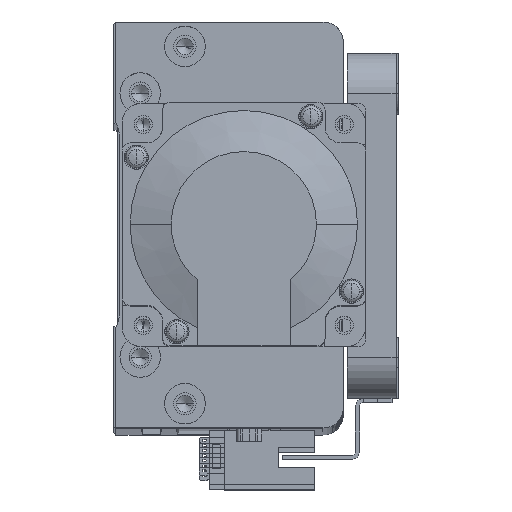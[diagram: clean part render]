
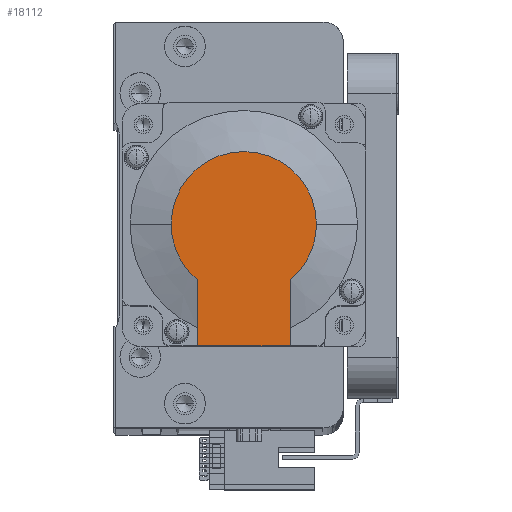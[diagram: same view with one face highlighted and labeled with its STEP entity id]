
A CAD part, top view. The second image highlights one B-rep face of the part: STEP entity #18112.
In plain terms, the highlighted planar face has unit normal (0, 0, 1) as drawn and (-1, 0, 0) by its records, which use the part's own axes.
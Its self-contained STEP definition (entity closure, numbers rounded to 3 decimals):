
#284 = CARTESIAN_POINT ( 'NONE',  ( -118.5, 13.735, -11.45 ) ) ;
#377 = VECTOR ( 'NONE', #56277, 1000. ) ;
#777 = DIRECTION ( 'NONE',  ( -1., 0., 0. ) ) ;
#2112 = DIRECTION ( 'NONE',  ( 0., 0., 1. ) ) ;
#2605 = VECTOR ( 'NONE', #6453, 1000. ) ;
#3573 = ORIENTED_EDGE ( 'NONE', *, *, #23605, .T. ) ;
#4505 = ORIENTED_EDGE ( 'NONE', *, *, #16506, .T. ) ;
#5080 = DIRECTION ( 'NONE',  ( -1., 0., 0. ) ) ;
#6453 = DIRECTION ( 'NONE',  ( 0., -1., 0. ) ) ;
#7199 = CIRCLE ( 'NONE', #49834, 17.881 ) ;
#7464 = ORIENTED_EDGE ( 'NONE', *, *, #56661, .F. ) ;
#11779 = VERTEX_POINT ( 'NONE', #45038 ) ;
#16506 = EDGE_CURVE ( 'NONE', #11779, #18006, #48184, .T. ) ;
#16622 = ORIENTED_EDGE ( 'NONE', *, *, #36509, .T. ) ;
#17113 = EDGE_LOOP ( 'NONE', ( #4505, #16622, #3573, #36120, #7464, #48745 ) ) ;
#17534 = EDGE_CURVE ( 'NONE', #29219, #39411, #42592, .T. ) ;
#18006 = VERTEX_POINT ( 'NONE', #284 ) ;
#18112 = ADVANCED_FACE ( 'NONE', ( #58006 ), #36474, .T. ) ;
#18321 = EDGE_CURVE ( 'NONE', #11779, #34857, #23401, .T. ) ;
#18755 = CARTESIAN_POINT ( 'NONE',  ( -118.5, 0., -17.881 ) ) ;
#19344 = DIRECTION ( 'NONE',  ( -1., 0., 0. ) ) ;
#19655 = AXIS2_PLACEMENT_3D ( 'NONE', #47084, #20106, #51637 ) ;
#20106 = DIRECTION ( 'NONE',  ( -1., 0., 0. ) ) ;
#23401 = LINE ( 'NONE', #24483, #57947 ) ;
#23605 = EDGE_CURVE ( 'NONE', #50733, #29219, #7199, .T. ) ;
#24483 = CARTESIAN_POINT ( 'NONE',  ( -118.5, 30., 25. ) ) ;
#26720 = CIRCLE ( 'NONE', #19655, 17.881 ) ;
#26755 = AXIS2_PLACEMENT_3D ( 'NONE', #27652, #777, #32124 ) ;
#27652 = CARTESIAN_POINT ( 'NONE',  ( -118.5, -8.941, 0. ) ) ;
#28805 = CARTESIAN_POINT ( 'NONE',  ( -118.5, 0., 11.45 ) ) ;
#29219 = VERTEX_POINT ( 'NONE', #58335 ) ;
#31894 = CARTESIAN_POINT ( 'NONE',  ( -118.5, 0., 0. ) ) ;
#32124 = DIRECTION ( 'NONE',  ( 0., 0., 1. ) ) ;
#34857 = VERTEX_POINT ( 'NONE', #55208 ) ;
#36120 = ORIENTED_EDGE ( 'NONE', *, *, #17534, .T. ) ;
#36445 = DIRECTION ( 'NONE',  ( 0., 0., -1. ) ) ;
#36474 = PLANE ( 'NONE',  #26755 ) ;
#36509 = EDGE_CURVE ( 'NONE', #18006, #50733, #26720, .T. ) ;
#37075 = AXIS2_PLACEMENT_3D ( 'NONE', #46348, #19344, #50857 ) ;
#39411 = VERTEX_POINT ( 'NONE', #42410 ) ;
#42410 = CARTESIAN_POINT ( 'NONE',  ( -118.5, 13.735, 11.45 ) ) ;
#42592 = CIRCLE ( 'NONE', #37075, 17.881 ) ;
#45038 = CARTESIAN_POINT ( 'NONE',  ( -118.5, 30., -11.45 ) ) ;
#46348 = CARTESIAN_POINT ( 'NONE',  ( -118.5, 0., 0. ) ) ;
#47084 = CARTESIAN_POINT ( 'NONE',  ( -118.5, 0., 0. ) ) ;
#47401 = CARTESIAN_POINT ( 'NONE',  ( -118.5, -8.941, -11.45 ) ) ;
#48184 = LINE ( 'NONE', #47401, #377 ) ;
#48745 = ORIENTED_EDGE ( 'NONE', *, *, #18321, .F. ) ;
#49834 = AXIS2_PLACEMENT_3D ( 'NONE', #31894, #5080, #36445 ) ;
#50459 = LINE ( 'NONE', #28805, #2605 ) ;
#50733 = VERTEX_POINT ( 'NONE', #18755 ) ;
#50857 = DIRECTION ( 'NONE',  ( 0., 0., -1. ) ) ;
#51637 = DIRECTION ( 'NONE',  ( 0., 0., -1. ) ) ;
#55208 = CARTESIAN_POINT ( 'NONE',  ( -118.5, 30., 11.45 ) ) ;
#56277 = DIRECTION ( 'NONE',  ( 0., -1., 0. ) ) ;
#56661 = EDGE_CURVE ( 'NONE', #34857, #39411, #50459, .T. ) ;
#57947 = VECTOR ( 'NONE', #2112, 1000. ) ;
#58006 = FACE_OUTER_BOUND ( 'NONE', #17113, .T. ) ;
#58335 = CARTESIAN_POINT ( 'NONE',  ( -118.5, 0., 17.881 ) ) ;
